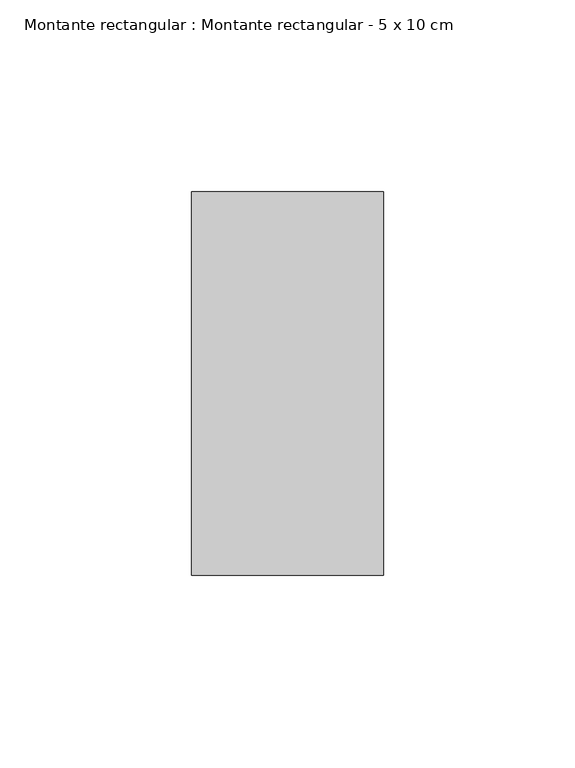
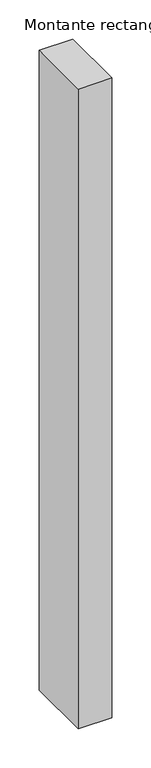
"""IFC4 building model written with IfcOpenShell, lengths in millimetres: member geometry, Montante rectangular : Montante rectangular - 5 x 10 cm."""

from ifc_helpers import new_model, si_unit, frame, origin, place, context, project, spatial, polyline, outline, extrude, source, transform, mapped, element, save


def montante_rectangular_montante_rectangular_5_x_10_cm_1467ba8b(model_context):
    return source(origin(), model_context, "Body", "SweptSolid", [
        extrude(outline(polyline([(0.0, 50.0), (0.0, -50.0), (-50.0, -50.0), (-50.0, 50.0), (0.0, 50.0)])), frame((0.0, 0.0, -1000.0), z_axis=(0.0, 0.0, 1.0), x_axis=(1.0, 0.0, 0.0)), (0.0, 0.0, 1.0), 1000.0),
    ])


if __name__ == "__main__":
    model = new_model("IFC4")
    model_context = context("Model", 3, world=origin())
    ifc_project = project(units=[si_unit("LENGTHUNIT", "METRE", prefix="MILLI")], contexts=[model_context])
    site = spatial("IfcSite", under=ifc_project)
    building = spatial("IfcBuilding", under=site)
    placement = place(None, origin())
    montante_rectangular_montante_rectangular_5_x_10_cm_shape = montante_rectangular_montante_rectangular_5_x_10_cm_1467ba8b(model_context)
    element("IfcMember", 1, ObjectType="Montante rectangular : Montante rectangular - 5 x 10 cm", at=placement, inside=building, context=model_context, shape_type="MappedRepresentation", body=[
        mapped(montante_rectangular_montante_rectangular_5_x_10_cm_shape, transform((0.0, 0.0, 0.0), x_axis=(1.0, 0.0, 0.0), y_axis=(0.0, 1.0, 0.0), z_axis=(0.0, 0.0, 1.0))),
    ])
    save(model, "model.ifc")
